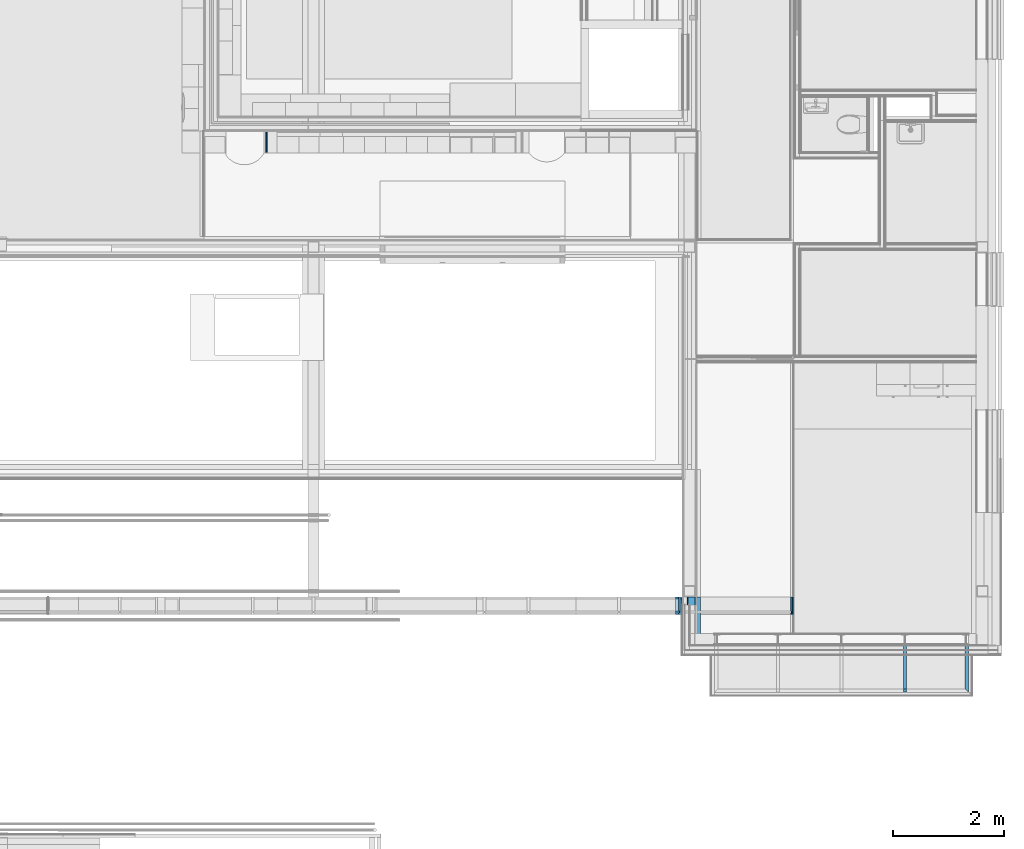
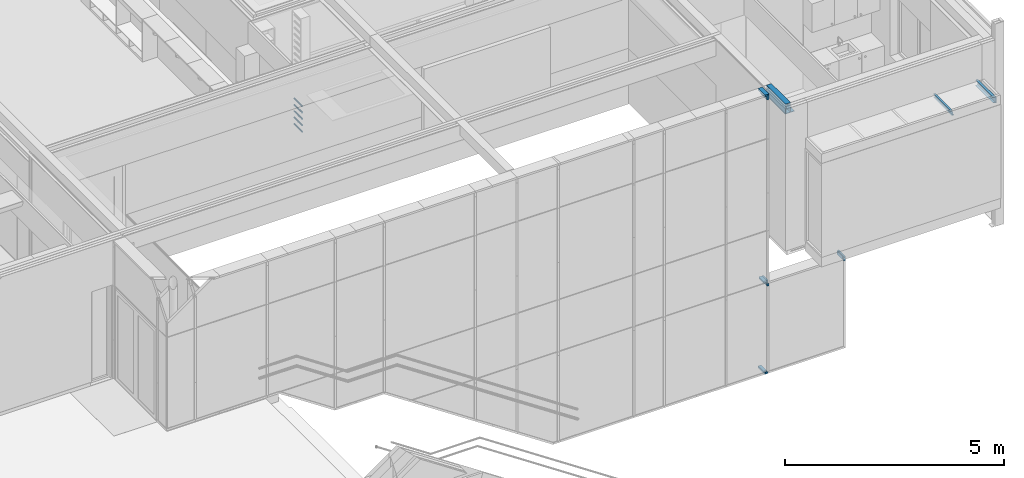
# One storey, part 32 of 137: 8 beams, 8 members, 1 element without a shape of its own.
"""IFC2X3 building model written with IfcOpenShell, lengths in millimetres."""

from ifc_helpers import new_model, entity, si_unit, converted_unit, derived_unit, money_unit, direction, frame, origin_with_axes, place, context, subcontext, project, spatial, faceted_brep, material, type_object, element, aggregate, save


model = new_model("IFC2X3")

# Units and contexts
model_context = context("Model", 3, precision=0.01, world=origin_with_axes(), true_north=direction((0.0, 1.0)))
body_context = subcontext(model_context, "Body", "Model", "MODEL_VIEW")
ifc_project = project(units=[si_unit("LENGTHUNIT", "METRE", prefix="MILLI"), si_unit("AREAUNIT", "SQUARE_METRE"), si_unit("VOLUMEUNIT", "CUBIC_METRE"), converted_unit("PLANEANGLEUNIT", "DEGREE", entity("IfcPlaneAngleMeasure", 0.0174532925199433), si_unit("PLANEANGLEUNIT", "RADIAN"), dimensions=[0, 0, 0, 0, 0, 0, 0]), money_unit("EUR"), converted_unit("TIMEUNIT", "Year", entity("IfcTimeMeasure", 31556926.0), si_unit("TIMEUNIT", "SECOND"), dimensions=[0, 0, 1, 0, 0, 0, 0]), si_unit("MASSUNIT", "GRAM", prefix="KILO"), si_unit("THERMODYNAMICTEMPERATUREUNIT", "DEGREE_CELSIUS"), si_unit("LUMINOUSINTENSITYUNIT", "LUMEN"), si_unit("ENERGYUNIT", "JOULE", prefix="MEGA"), derived_unit("THERMALCONDUCTANCEUNIT", [(si_unit("POWERUNIT", "WATT"), 1), (si_unit("LENGTHUNIT", "METRE"), -1), (si_unit("THERMODYNAMICTEMPERATUREUNIT", "KELVIN"), -1)]), derived_unit("SPECIFICHEATCAPACITYUNIT", [(si_unit("ENERGYUNIT", "JOULE"), 1), (si_unit("MASSUNIT", "GRAM", prefix="KILO"), -1), (si_unit("THERMODYNAMICTEMPERATUREUNIT", "KELVIN"), -1)]), derived_unit("MASSDENSITYUNIT", [(si_unit("MASSUNIT", "GRAM", prefix="KILO"), 1), (si_unit("VOLUMEUNIT", "CUBIC_METRE"), -1)])], contexts=[model_context])

# Site, building, storey
site_placement = place(None, origin_with_axes())
site = spatial("IfcSite", under=ifc_project, at=site_placement, Name="Site", CompositionType="ELEMENT")
building_placement = place(site_placement, origin_with_axes())
building = spatial("IfcBuilding", under=site, at=building_placement, Name="Naam gebouw", CompositionType="ELEMENT")
storey_placement = place(building_placement, frame((0.0, 0.0, 3960.0), z_axis=(0.0, 0.0, 1.0), x_axis=(1.0, 0.0, 0.0)))
storey = spatial("IfcBuildingStorey", under=building, at=storey_placement, Name="1e verdieping", CompositionType="ELEMENT", Elevation=3960.0)

# Beams
ifc_material_1 = material(Name="Metaal - Staal C")
beam_type_1 = type_object("IfcBeamType", Name="28 THQ enkele flens 06 245 x 280", PredefinedType="BEAM")
beam_1_placement = place(storey_placement, frame((24499.99903999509, 3599.999999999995, 3859.999999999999), z_axis=(0.0, 0.0, 1.0), x_axis=(1.0, 0.0, 0.0)))
element("IfcBeam", 1, at=beam_1_placement, inside=storey, type_object=beam_type_1, material=ifc_material_1, Name="h METAAL_Regenwaterafvoer-x", ObjectType="BEAM", context=body_context, shape_type="Brep", body=[
    faceted_brep([(198.9999916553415, 0.0, -279.9999988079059), (-46.00000834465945, 0.0, -279.9999988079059), (-46.00000834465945, 880.0000000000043, -279.9999988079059), (198.9999916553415, 880.0000000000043, -279.9999988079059), (-31.00000953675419, 0.0, -264.9999999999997), (-46.00000834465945, 0.0, -264.9999999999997), (198.9999916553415, 0.0, -264.9999999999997), (100.9999999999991, 0.0, -264.9999999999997), (100.9999999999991, 0.0, 1.192097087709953e-06), (-31.00000953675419, 0.0, 1.192097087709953e-06), (94.99999046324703, 0.0, -30.00000059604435), (94.99999046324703, 0.0, -264.9999999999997), (-25.00000834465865, 0.0, -264.9999999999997), (-25.00000834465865, 0.0, -30.00000059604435), (-46.00000834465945, 880.0000000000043, -264.9999999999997), (198.9999916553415, 880.0000000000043, -264.9999999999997), (-31.00000953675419, 880.0000000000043, -264.9999999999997), (-31.00000953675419, 880.0000000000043, 1.192097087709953e-06), (100.9999999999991, 880.0000000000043, 1.192097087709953e-06), (100.9999999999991, 880.0000000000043, -264.9999999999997), (94.99999046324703, 880.0000000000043, -30.00000059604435), (-25.00000834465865, 880.0000000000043, -30.00000059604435), (-25.00000834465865, 880.0000000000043, -264.9999999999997), (94.99999046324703, 880.0000000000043, -264.9999999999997)], [[[0, 1, 2, 3]], [[4, 5, 1, 0, 6, 7, 8, 9], [10, 11, 12, 13]], [[1, 5, 14, 2]], [[15, 3, 2, 14, 16, 17, 18, 19], [20, 21, 22, 23]], [[6, 0, 3, 15]], [[5, 4, 16, 14]], [[7, 6, 15, 19]], [[8, 7, 19, 18]], [[9, 8, 18, 17]], [[4, 9, 17, 16]], [[11, 10, 20, 23]], [[12, 11, 23, 22]], [[13, 12, 22, 21]], [[10, 13, 21, 20]]]),
])
beam_type_2 = type_object("IfcBeamType", Name="IPE100 55 x 100", PredefinedType="BEAM")
beam_2_placement = place(storey_placement, frame((28399.99999999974, 2750.000035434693, 2733.5), z_axis=(0.0, 0.0, 1.0), x_axis=(1.0, 0.0, 0.0)))
element("IfcBeam", 2, at=beam_2_placement, inside=storey, type_object=beam_type_2, material=ifc_material_1, Name="h METAAL_Regenwaterafvoer-x", ObjectType="BEAM", context=body_context, shape_type="Brep", body=[
    faceted_brep([(-27.49999999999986, 849.9999999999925, 49.99999999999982), (-27.49999999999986, 64.99996456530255, 49.99999999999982), (27.49999999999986, 64.99996456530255, 49.99999999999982), (27.49999999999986, 849.9999999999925, 49.99999999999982), (-27.49999999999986, 849.9999999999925, 44.29999999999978), (-27.49999999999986, 64.99996456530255, 44.29999999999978), (2.050000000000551, 64.99996456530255, 44.29999999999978), (27.49999999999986, 64.99996456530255, 44.29999999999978), (-2.050000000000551, 64.99996456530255, 44.29999999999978), (-2.050000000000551, 64.99996456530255, 39.49999999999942), (2.050000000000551, 64.99996456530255, 39.49999999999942), (27.49999999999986, 849.9999999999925, 44.29999999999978), (-2.050000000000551, 849.9999999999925, -44.29999999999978), (-2.050000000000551, 849.9999999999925, 44.29999999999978), (2.050000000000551, 849.9999999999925, 44.29999999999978), (2.050000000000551, 849.9999999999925, -44.29999999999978), (27.49999999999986, 849.9999999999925, -44.29999999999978), (27.49999999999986, 849.9999999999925, -49.99999999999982), (-27.49999999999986, 849.9999999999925, -49.99999999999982), (-27.49999999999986, 849.9999999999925, -44.29999999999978), (-2.050000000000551, 7.499964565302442, 39.49999999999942), (-2.050000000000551, 7.499964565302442, -44.29999999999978), (2.050000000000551, 7.499964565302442, 39.49999999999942), (2.050000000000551, 7.499964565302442, -44.29999999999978), (27.49999999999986, 7.499964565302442, -44.29999999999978), (27.49999999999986, 7.499964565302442, -49.99999999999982), (-27.49999999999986, 7.499964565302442, -49.99999999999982), (-27.49999999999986, 7.499964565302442, -44.29999999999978)], [[[0, 1, 2, 3]], [[4, 5, 1, 0]], [[6, 7, 2, 1, 5, 8, 9, 10]], [[3, 2, 7, 11]], [[12, 13, 4, 0, 3, 11, 14, 15, 16, 17, 18, 19]], [[13, 8, 5, 4]], [[11, 7, 6, 14]], [[20, 9, 8, 13, 12, 21]], [[20, 22, 10, 9]], [[10, 22, 23, 15, 14, 6]], [[15, 23, 24, 16]], [[16, 24, 25, 17]], [[17, 25, 26, 18]], [[18, 26, 27, 19]], [[19, 27, 21, 12]], [[26, 25, 24, 23, 22, 20, 21, 27]]]),
])
beam_type_3 = type_object("IfcBeamType", Name="UNP160 65 x 160", PredefinedType="BEAM")
beam_3_placement = place(storey_placement, frame((29549.99999999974, 3600.000070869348, 2703.499999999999), z_axis=(0.0, 0.0, 1.0), x_axis=(-1.0, 0.0, 0.0)))
element("IfcBeam", 3, at=beam_3_placement, inside=storey, type_object=beam_type_3, material=ifc_material_1, Name="h METAAL_Regenwaterafvoer-x", ObjectType="BEAM", context=body_context, shape_type="Brep", body=[
    faceted_brep([(0.0, 0.0, -80.00000000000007), (0.0, 850.0000708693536, -80.00000000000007), (65.00000000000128, 785.000070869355, -80.00000000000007), (65.00000000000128, 0.0, -80.00000000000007), (0.0, 0.0, 80.00000000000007), (0.0, 850.0000708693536, 80.00000000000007), (65.00000000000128, 785.000070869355, 80.00000000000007), (65.00000000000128, 785.000070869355, 69.49999999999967), (7.500000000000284, 842.5000708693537, 69.49999999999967), (7.500000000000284, 842.5000708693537, -69.49999999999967), (65.00000000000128, 785.000070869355, -69.49999999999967), (65.00000000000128, 0.0, -69.49999999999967), (7.500000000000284, 0.0, -69.49999999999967), (7.500000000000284, 0.0, 69.49999999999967), (65.00000000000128, 0.0, 69.49999999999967), (65.00000000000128, 0.0, 80.00000000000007)], [[[0, 1, 2, 3]], [[4, 5, 1, 0]], [[2, 1, 5, 6, 7, 8, 9, 10]], [[3, 2, 10, 11]], [[4, 0, 3, 11, 12, 13, 14, 15]], [[15, 6, 5, 4]], [[14, 7, 6, 15]], [[13, 8, 7, 14]], [[12, 9, 8, 13]], [[11, 10, 9, 12]]]),
])
ifc_material_2 = material(Name="ALG - ALGEMEEN")
beam_type_4 = type_object("IfcBeamType", Name="ALG - ALGEMEEN D30", PredefinedType="BEAM")
for number, where, z_axis, x_axis, name in (
    (4, (16849.70874993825, 12893.3162414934, 344.9999999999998), (0.0, 0.0, 1.0), (-1.0, 0.0, 0.0), "_Regenwaterafvoer-x"),
    (5, (16849.70874993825, 12893.3162414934, 705.0000000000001), (0.0, 0.0, 1.0), (-1.0, 0.0, 0.0), "_Regenwaterafvoer-x"),
):
    element("IfcBeam", number, at=place(storey_placement, frame(where, z_axis=z_axis, x_axis=x_axis)), inside=storey, type_object=beam_type_4, material=ifc_material_2, Name=name, ObjectType="BEAM", context=body_context, shape_type="Brep", body=[
        faceted_brep([(-12.99038105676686, 6.318459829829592, -7.500000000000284), (-15.00000000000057, 6.318459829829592, 0.0), (-15.00000000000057, 370.3184598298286, 0.0), (-12.99038105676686, 370.3184598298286, -7.500000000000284), (-12.99038105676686, 6.318459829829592, 7.500000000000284), (-7.500000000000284, 6.318459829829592, -12.99038105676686), (0.0, 6.318459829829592, -14.99999999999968), (7.500000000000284, 6.318459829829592, -12.99038105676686), (12.99038105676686, 6.318459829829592, -7.500000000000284), (15.00000000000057, 6.318459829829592, 0.0), (12.99038105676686, 6.318459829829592, 7.500000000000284), (7.500000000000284, 6.318459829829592, 12.99038105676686), (0.0, 6.318459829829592, 14.99999999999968), (-7.500000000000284, 6.318459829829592, 12.99038105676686), (-12.99038105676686, 370.3184598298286, 7.500000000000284), (-7.500000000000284, 370.3184598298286, 12.99038105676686), (0.0, 370.3184598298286, 14.99999999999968), (7.500000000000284, 370.3184598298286, 12.99038105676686), (12.99038105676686, 370.3184598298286, 7.500000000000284), (15.00000000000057, 370.3184598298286, 0.0), (12.99038105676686, 370.3184598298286, -7.500000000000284), (7.500000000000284, 370.3184598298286, -12.99038105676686), (0.0, 370.3184598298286, -14.99999999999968), (-7.500000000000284, 370.3184598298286, -12.99038105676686)], [[[0, 1, 2, 3]], [[4, 1, 0, 5, 6, 7, 8, 9, 10, 11, 12, 13]], [[1, 4, 14, 2]], [[3, 2, 14, 15, 16, 17, 18, 19, 20, 21, 22, 23]], [[5, 0, 3, 23]], [[6, 5, 23, 22]], [[7, 6, 22, 21]], [[8, 7, 21, 20]], [[9, 8, 20, 19]], [[10, 9, 19, 18]], [[11, 10, 18, 17]], [[12, 11, 17, 16]], [[13, 12, 16, 15]], [[4, 13, 15, 14]]]),
    ])
for number, where, z_axis, x_axis, name in (
    (6, (16849.70874993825, 12893.3162414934, 885.0000000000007), (0.0, 0.0, 1.0), (-1.0, 0.0, 0.0), "_Regenwaterafvoer-x"),
    (7, (16849.70874993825, 12893.3162414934, 1065.0), (0.0, 0.0, 1.0), (-1.0, 0.0, 0.0), "_Regenwaterafvoer-x"),
):
    element("IfcBeam", number, at=place(storey_placement, frame(where, z_axis=z_axis, x_axis=x_axis)), inside=storey, type_object=beam_type_4, material=ifc_material_2, Name=name, ObjectType="BEAM", context=body_context, shape_type="Brep", body=[
        faceted_brep([(-12.99038105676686, 6.318459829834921, -7.500000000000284), (-15.00000000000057, 6.318459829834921, 0.0), (-15.00000000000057, 370.3184598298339, 0.0), (-12.99038105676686, 370.3184598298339, -7.500000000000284), (-12.99038105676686, 6.318459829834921, 7.500000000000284), (-7.500000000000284, 6.318459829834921, -12.99038105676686), (0.0, 6.318459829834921, -14.99999999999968), (7.500000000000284, 6.318459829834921, -12.99038105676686), (12.99038105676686, 6.318459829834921, -7.500000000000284), (15.00000000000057, 6.318459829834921, 0.0), (12.99038105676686, 6.318459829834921, 7.500000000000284), (7.500000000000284, 6.318459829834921, 12.99038105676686), (0.0, 6.318459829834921, 14.99999999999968), (-7.500000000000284, 6.318459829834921, 12.99038105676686), (-12.99038105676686, 370.3184598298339, 7.500000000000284), (-7.500000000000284, 370.3184598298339, 12.99038105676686), (0.0, 370.3184598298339, 14.99999999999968), (7.500000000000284, 370.3184598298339, 12.99038105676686), (12.99038105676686, 370.3184598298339, 7.500000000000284), (15.00000000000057, 370.3184598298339, 0.0), (12.99038105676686, 370.3184598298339, -7.500000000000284), (7.500000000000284, 370.3184598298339, -12.99038105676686), (0.0, 370.3184598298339, -14.99999999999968), (-7.500000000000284, 370.3184598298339, -12.99038105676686)], [[[0, 1, 2, 3]], [[4, 1, 0, 5, 6, 7, 8, 9, 10, 11, 12, 13]], [[1, 4, 14, 2]], [[3, 2, 14, 15, 16, 17, 18, 19, 20, 21, 22, 23]], [[5, 0, 3, 23]], [[6, 5, 23, 22]], [[7, 6, 22, 21]], [[8, 7, 21, 20]], [[9, 8, 20, 19]], [[10, 9, 19, 18]], [[11, 10, 18, 17]], [[12, 11, 17, 16]], [[13, 12, 16, 15]], [[4, 13, 15, 14]]]),
    ])
beam_4_placement = place(storey_placement, frame((16849.70874993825, 12893.3162414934, 525.0000000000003), z_axis=(0.0, 0.0, 1.0), x_axis=(-1.0, 0.0, 0.0)))
element("IfcBeam", 8, at=beam_4_placement, inside=storey, type_object=beam_type_4, material=ifc_material_2, Name="_Regenwaterafvoer-x", ObjectType="BEAM", context=body_context, shape_type="Brep", body=[
    faceted_brep([(-12.99038105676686, 6.318459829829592, -7.500000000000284), (-15.00000000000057, 6.318459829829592, 0.0), (-15.00000000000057, 370.3184598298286, 0.0), (-12.99038105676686, 370.3184598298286, -7.500000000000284), (-12.99038105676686, 6.318459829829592, 7.500000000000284), (-7.500000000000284, 6.318459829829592, -12.99038105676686), (0.0, 6.318459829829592, -14.99999999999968), (7.500000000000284, 6.318459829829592, -12.99038105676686), (12.99038105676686, 6.318459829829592, -7.500000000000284), (15.00000000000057, 6.318459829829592, 0.0), (12.99038105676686, 6.318459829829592, 7.500000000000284), (7.500000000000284, 6.318459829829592, 12.99038105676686), (0.0, 6.318459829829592, 14.99999999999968), (-7.500000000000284, 6.318459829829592, 12.99038105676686), (-12.99038105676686, 370.3184598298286, 7.500000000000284), (-7.500000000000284, 370.3184598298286, 12.99038105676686), (0.0, 370.3184598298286, 14.99999999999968), (7.500000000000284, 370.3184598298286, 12.99038105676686), (12.99038105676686, 370.3184598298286, 7.500000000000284), (15.00000000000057, 370.3184598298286, 0.0), (12.99038105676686, 370.3184598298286, -7.500000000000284), (7.500000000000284, 370.3184598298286, -12.99038105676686), (0.0, 370.3184598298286, -14.99999999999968), (-7.500000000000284, 370.3184598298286, -12.99038105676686)], [[[0, 1, 2, 3]], [[4, 1, 0, 5, 6, 7, 8, 9, 10, 11, 12, 13]], [[1, 4, 14, 2]], [[3, 2, 14, 15, 16, 17, 18, 19, 20, 21, 22, 23]], [[5, 0, 3, 23]], [[6, 5, 23, 22]], [[7, 6, 22, 21]], [[8, 7, 21, 20]], [[9, 8, 20, 19]], [[10, 9, 19, 18]], [[11, 10, 18, 17]], [[12, 11, 17, 16]], [[13, 12, 16, 15]], [[4, 13, 15, 14]]]),
])

# Curtain wall, members
curtain_wall_type = type_object("IfcCurtainWallType", Name="Curtain Wall Type", PredefinedType="NOTDEFINED")
curtain_wall_placement = place(storey_placement, frame((8473.014787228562, 4364.43626274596, -3949.999921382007), z_axis=(0.0, 0.0, 1.0), x_axis=(1.0, 0.0, 0.0)))
curtain_wall = element("IfcCurtainWall", 9, at=curtain_wall_placement, inside=storey, type_object=curtain_wall_type, Name="21_Vliesgevel-x")
ifc_material_3 = material(Name="Metaal - Staal AFW")
member_type_1 = type_object("IfcMemberType", Name="Boundary Frame 50 x 313", PredefinedType="MULLION")
member_1_placement = place(curtain_wall_placement, frame((15769.94164561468, -161.4362627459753, 7800.000020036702), z_axis=(1.0, 0.0, 0.0), x_axis=(0.0, 0.0, 1.0)))
member_1 = element("IfcMember", 10, at=member_1_placement, type_object=member_type_1, material=ifc_material_3, Name="h METAAL_Kader-x", ObjectType="MULLION", context=body_context, shape_type="Brep", body=[
    faceted_brep([(-35.00000000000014, -17.4000000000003, 0.0), (-35.00000000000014, -17.4000000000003, 76.0446095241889), (-35.00000000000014, 20.99999999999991, 76.0446095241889), (-35.00000000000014, 20.99999999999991, 0.0), (-14.99999999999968, -17.4000000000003, 0.0), (-14.99999999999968, -17.4000000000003, 96.04460952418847), (-14.99999999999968, 20.99999999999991, 96.04460952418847), (-14.99999999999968, 20.99999999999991, 0.0)], [[[0, 1, 2, 3]], [[4, 5, 1, 0]], [[1, 5, 6, 2]], [[3, 2, 6, 7]], [[0, 3, 7, 4]], [[7, 6, 5, 4]]]),
    faceted_brep([(-14.99999999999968, -20.99999999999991, 0.0), (-14.99999999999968, -20.99999999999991, 96.04460952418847), (-14.99999999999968, 20.99999999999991, 96.04460952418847), (-14.99999999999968, 20.99999999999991, 0.0), (0.0, -20.99999999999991, 0.0), (0.0, -20.99999999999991, 111.044609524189), (0.0, 20.99999999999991, 111.044609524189), (0.0, 20.99999999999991, 0.0)], [[[0, 1, 2, 3]], [[4, 5, 1, 0]], [[1, 5, 6, 2]], [[3, 2, 6, 7]], [[0, 3, 7, 4]], [[7, 6, 5, 4]]]),
    faceted_brep([(-49.99999999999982, -272.0000000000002, 0.0), (-49.99999999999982, -272.0000000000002, 61.04460952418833), (-49.99999999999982, -17.4000000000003, 61.04460952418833), (-49.99999999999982, -17.4000000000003, 0.0), (0.0, -272.0000000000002, 0.0), (0.0, -272.0000000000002, 111.044609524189), (0.0, -17.4000000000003, 111.044609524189), (0.0, -17.4000000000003, 0.0)], [[[0, 1, 2, 3]], [[4, 5, 1, 0]], [[1, 5, 6, 2]], [[3, 2, 6, 7]], [[0, 3, 7, 4]], [[7, 6, 5, 4]]]),
    faceted_brep([(0.0, 41.00000000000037, 0.0), (0.0, 41.00000000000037, 111.044609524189), (0.0, 20.99999999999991, 111.044609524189), (0.0, 20.99999999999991, 0.0), (-49.99999999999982, 41.00000000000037, 0.0), (-49.99999999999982, 41.00000000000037, 61.04460952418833), (-49.99999999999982, 20.99999999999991, 61.04460952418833), (-49.99999999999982, 20.99999999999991, 0.0)], [[[0, 1, 2, 3]], [[4, 5, 1, 0]], [[1, 5, 6, 2]], [[3, 2, 6, 7]], [[0, 3, 7, 4]], [[7, 6, 5, 4]]]),
])
member_2_placement = place(curtain_wall_placement, frame((15880.98625513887, -161.4362627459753, 7639.999766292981), z_axis=(0.0, 0.0, 1.0), x_axis=(-1.0, 0.0, 0.0)))
member_2 = element("IfcMember", 11, at=member_2_placement, type_object=member_type_1, material=ifc_material_3, Name="h METAAL_Kader-x", ObjectType="MULLION", context=body_context, shape_type="Brep", body=[
    faceted_brep([(35.00000000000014, -17.4000000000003, 0.0), (35.00000000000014, 20.99999999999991, 0.0), (35.00000000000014, 20.99999999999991, 125.000253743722), (35.00000000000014, -17.4000000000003, 125.000253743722), (15.00000000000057, -17.4000000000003, 0.0), (15.00000000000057, 20.99999999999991, 0.0), (15.00000000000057, 20.99999999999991, 145.0002537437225), (15.00000000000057, -17.4000000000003, 145.0002537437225)], [[[0, 1, 2, 3]], [[0, 4, 5, 1]], [[1, 5, 6, 2]], [[3, 2, 6, 7]], [[4, 0, 3, 7]], [[5, 4, 7, 6]]]),
    faceted_brep([(15.00000000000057, -20.99999999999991, 0.0), (15.00000000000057, 20.99999999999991, 0.0), (15.00000000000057, 20.99999999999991, 145.0002537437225), (15.00000000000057, -20.99999999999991, 145.0002537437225), (0.0, -20.99999999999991, 0.0), (0.0, 20.99999999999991, 0.0), (0.0, 20.99999999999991, 160.0002537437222), (0.0, -20.99999999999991, 160.0002537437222)], [[[0, 1, 2, 3]], [[0, 4, 5, 1]], [[1, 5, 6, 2]], [[3, 2, 6, 7]], [[4, 0, 3, 7]], [[5, 4, 7, 6]]]),
    faceted_brep([(50.00000000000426, -272.0000000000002, 0.0), (50.00000000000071, -17.4000000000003, 0.0), (50.00000000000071, -17.4000000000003, 110.0002537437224), (50.00000000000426, -272.0000000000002, 110.0002537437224), (0.0, -272.0000000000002, 0.0), (0.0, -17.4000000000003, 0.0), (0.0, -17.4000000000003, 160.0002537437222), (0.0, -272.0000000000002, 160.0002537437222)], [[[0, 1, 2, 3]], [[0, 4, 5, 1]], [[1, 5, 6, 2]], [[3, 2, 6, 7]], [[4, 0, 3, 7]], [[5, 4, 7, 6]]]),
    faceted_brep([(0.0, 41.00000000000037, 0.0), (0.0, 20.99999999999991, 0.0), (0.0, 20.99999999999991, 160.0002537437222), (0.0, 41.00000000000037, 160.0002537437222), (50.00000000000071, 41.00000000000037, 0.0), (50.00000000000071, 20.99999999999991, 0.0), (50.00000000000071, 20.99999999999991, 110.0002537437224), (50.00000000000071, 41.00000000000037, 110.0002537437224)], [[[0, 1, 2, 3]], [[0, 4, 5, 1]], [[1, 5, 6, 2]], [[3, 2, 6, 7]], [[4, 0, 3, 7]], [[5, 4, 7, 6]]]),
])
member_3_placement = place(curtain_wall_placement, frame((17902.98668758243, -161.4362627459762, 2535.000029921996), z_axis=(0.0, 0.0, 1.0), x_axis=(-1.0, 0.0, 0.0)))
member_3 = element("IfcMember", 12, at=member_3_placement, type_object=member_type_1, material=ifc_material_3, Name="h METAAL_Kader-x", ObjectType="MULLION", context=body_context, shape_type="Brep", body=[
    faceted_brep([(24.99997453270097, 20.99999999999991, 0.0), (15.00000000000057, 20.99999999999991, 0.0), (15.00000000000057, 20.99999999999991, 9.999974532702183), (24.99997453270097, -17.4000000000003, 0.0), (15.00000000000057, -17.4000000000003, 0.0), (15.00000000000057, -17.4000000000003, 9.999974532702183)], [[[0, 1, 2]], [[3, 4, 1, 0]], [[1, 4, 5, 2]], [[0, 2, 5, 3]], [[4, 3, 5]]]),
    faceted_brep([(15.00000000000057, -20.99999999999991, 0.0), (15.00000000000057, 20.99999999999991, 0.0), (15.00000000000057, 20.99999999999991, 9.999974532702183), (15.00000000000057, -20.99999999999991, 9.999974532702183), (0.0, -20.99999999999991, 0.0), (0.0, 20.99999999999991, 0.0), (0.0, 20.99999999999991, 24.99997453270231), (0.0, -20.99999999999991, 24.99997453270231)], [[[0, 1, 2, 3]], [[0, 4, 5, 1]], [[1, 5, 6, 2]], [[3, 2, 6, 7]], [[4, 0, 3, 7]], [[5, 4, 7, 6]]]),
    faceted_brep([(24.99997453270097, -17.4000000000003, 0.0), (0.0, -17.4000000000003, 0.0), (0.0, -17.4000000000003, 24.99997453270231), (24.99997453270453, -272.0000000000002, 0.0), (0.0, -272.0000000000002, 0.0), (0.0, -272.0000000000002, 24.99997453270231)], [[[0, 1, 2]], [[3, 4, 1, 0]], [[1, 4, 5, 2]], [[0, 2, 5, 3]], [[4, 3, 5]]]),
    faceted_brep([(0.0, 41.00000000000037, 0.0), (0.0, 20.99999999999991, 0.0), (0.0, 20.99999999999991, 24.99997453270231), (0.0, 41.00000000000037, 24.99997453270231), (24.99997453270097, 41.00000000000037, 0.0), (24.99997453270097, 20.99999999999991, 0.0)], [[[0, 1, 2, 3]], [[0, 4, 5, 1]], [[1, 5, 2]], [[5, 4, 3, 2]], [[4, 0, 3]]]),
])
member_4_placement = place(curtain_wall_placement, frame((15769.94164561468, -161.4362627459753, 3.861439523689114e-05), z_axis=(0.9999999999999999, 0.0, -1.810294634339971e-08), x_axis=(1.810294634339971e-08, 0.0, 0.9999999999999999)))
member_4 = element("IfcMember", 13, at=member_4_placement, type_object=member_type_1, material=ifc_material_3, Name="h METAAL_Kader-x", ObjectType="MULLION", context=body_context, shape_type="Brep", body=[
    faceted_brep([(34.99999999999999, -17.4000000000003, -1.086174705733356e-06), (34.99999999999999, 20.99999999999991, -1.086174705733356e-06), (35.00000156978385, 20.99999999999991, 86.71427386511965), (35.00000156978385, -17.4000000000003, 86.71427386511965), (14.99999999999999, -17.4000000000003, -7.241176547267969e-07), (14.99999999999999, 20.99999999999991, -7.241176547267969e-07), (15.00000156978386, 20.99999999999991, 86.7142742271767), (15.00000156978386, -17.4000000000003, 86.7142742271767)], [[[0, 1, 2, 3]], [[0, 4, 5, 1]], [[1, 5, 6, 2]], [[3, 2, 6, 7]], [[4, 0, 3, 7]], [[5, 4, 7, 6]]]),
    faceted_brep([(14.99999999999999, -20.99999999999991, -7.241176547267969e-07), (14.99999999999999, 20.99999999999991, -7.241176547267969e-07), (15.00000156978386, 20.99999999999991, 86.7142742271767), (15.00000156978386, -20.99999999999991, 86.7142742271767), (0.0, -20.99999999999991, -4.525730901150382e-07), (0.0, 20.99999999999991, -4.525730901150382e-07), (1.569783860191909e-06, 20.99999999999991, 86.71427449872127), (1.569783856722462e-06, -20.99999999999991, 86.71427449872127)], [[[0, 1, 2, 3]], [[0, 4, 5, 1]], [[1, 5, 6, 2]], [[3, 2, 6, 7]], [[4, 0, 3, 7]], [[5, 4, 7, 6]]]),
    faceted_brep([(49.99999999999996, -272.0000000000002, -1.357719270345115e-06), (49.99999999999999, -17.4000000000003, -1.357719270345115e-06), (50.00000156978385, -17.4000000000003, 86.71427359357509), (50.00000156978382, -272.0000000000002, 86.71427359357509), (0.0, -272.0000000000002, -4.525730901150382e-07), (0.0, -17.4000000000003, -4.525730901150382e-07), (1.569783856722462e-06, -17.4000000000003, 86.71427449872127), (1.569783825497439e-06, -272.0000000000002, 86.71427449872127)], [[[0, 1, 2, 3]], [[0, 4, 5, 1]], [[1, 5, 6, 2]], [[3, 2, 6, 7]], [[4, 0, 3, 7]], [[5, 4, 7, 6]]]),
    faceted_brep([(0.0, 41.00000000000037, -4.525730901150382e-07), (0.0, 20.99999999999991, -4.525730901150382e-07), (1.569783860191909e-06, 20.99999999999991, 86.71427449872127), (1.569783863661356e-06, 41.00000000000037, 86.71427449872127), (49.99999999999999, 41.00000000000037, -1.357719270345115e-06), (49.99999999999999, 20.99999999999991, -1.357719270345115e-06), (50.00000156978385, 20.99999999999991, 86.71427359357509), (50.00000156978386, 41.00000000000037, 86.71427359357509)], [[[0, 1, 2, 3]], [[0, 4, 5, 1]], [[1, 5, 6, 2]], [[3, 2, 6, 7]], [[4, 0, 3, 7]], [[5, 4, 7, 6]]]),
])
member_5_placement = place(curtain_wall_placement, frame((17902.98668758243, -161.4362627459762, 2439.99976629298), z_axis=(0.0, 0.0, 1.0), x_axis=(-1.0, 0.0, 0.0)))
member_5 = element("IfcMember", 14, at=member_5_placement, type_object=member_type_1, material=ifc_material_3, Name="h METAAL_Kader-x", ObjectType="MULLION", context=body_context, shape_type="Brep", body=[
    faceted_brep([(35.00000000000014, -17.4000000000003, 0.0), (35.00000000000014, 20.99999999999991, 0.0), (35.00000000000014, 20.99999999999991, 95.00026362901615), (35.00000000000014, -17.4000000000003, 95.00026362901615), (15.00000000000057, -17.4000000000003, 0.0), (15.00000000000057, 20.99999999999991, 0.0), (15.00000000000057, 20.99999999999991, 95.00026362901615), (15.00000000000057, -17.4000000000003, 95.00026362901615)], [[[0, 1, 2, 3]], [[0, 4, 5, 1]], [[1, 5, 6, 2]], [[3, 2, 6, 7]], [[4, 0, 3, 7]], [[5, 4, 7, 6]]]),
    faceted_brep([(15.00000000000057, -20.99999999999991, 0.0), (15.00000000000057, 20.99999999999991, 0.0), (15.00000000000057, 20.99999999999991, 95.00026362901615), (15.00000000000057, -20.99999999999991, 95.00026362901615), (0.0, -20.99999999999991, 0.0), (0.0, 20.99999999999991, 0.0), (0.0, 20.99999999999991, 95.00026362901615), (0.0, -20.99999999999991, 95.00026362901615)], [[[0, 1, 2, 3]], [[0, 4, 5, 1]], [[1, 5, 6, 2]], [[3, 2, 6, 7]], [[4, 0, 3, 7]], [[5, 4, 7, 6]]]),
    faceted_brep([(50.00000000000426, -272.0000000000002, 0.0), (50.00000000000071, -17.4000000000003, 0.0), (50.00000000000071, -17.4000000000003, 95.00026362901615), (50.00000000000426, -272.0000000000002, 95.00026362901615), (0.0, -272.0000000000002, 0.0), (0.0, -17.4000000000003, 0.0), (0.0, -17.4000000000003, 95.00026362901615), (0.0, -272.0000000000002, 95.00026362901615)], [[[0, 1, 2, 3]], [[0, 4, 5, 1]], [[1, 5, 6, 2]], [[3, 2, 6, 7]], [[4, 0, 3, 7]], [[5, 4, 7, 6]]]),
    faceted_brep([(0.0, 41.00000000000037, 0.0), (0.0, 20.99999999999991, 0.0), (0.0, 20.99999999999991, 95.00026362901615), (0.0, 41.00000000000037, 95.00026362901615), (50.00000000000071, 41.00000000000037, 0.0), (50.00000000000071, 20.99999999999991, 0.0), (50.00000000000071, 20.99999999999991, 95.00026362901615), (50.00000000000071, 41.00000000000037, 95.00026362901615)], [[[0, 1, 2, 3]], [[0, 4, 5, 1]], [[1, 5, 6, 2]], [[3, 2, 6, 7]], [[4, 0, 3, 7]], [[5, 4, 7, 6]]]),
])
member_type_2 = type_object("IfcMemberType", Name="Transom Frame 50 x 258", PredefinedType="MULLION")
member_6_placement = place(curtain_wall_placement, frame((15769.94164561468, -161.4362627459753, 2535.000025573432), z_axis=(0.9999999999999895, 0.0, -1.451031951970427e-07), x_axis=(1.451031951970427e-07, 0.0, 0.9999999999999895)))
member_6 = element("IfcMember", 15, at=member_6_placement, type_object=member_type_2, material=ifc_material_3, Name="h METAAL_Kader-x", ObjectType="MULLION", context=body_context, shape_type="Brep", body=[
    faceted_brep([(24.99999999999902, -237.0000000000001, -7.255160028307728e-06), (24.99999999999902, -17.4000000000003, -7.255160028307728e-06), (25.0000125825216, -17.4000000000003, 86.7142980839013), (25.0000125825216, -237.0000000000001, 86.7142980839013), (-25.00000000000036, -237.0000000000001, 0.0), (-25.00000000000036, -17.4000000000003, 0.0), (-24.99998741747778, -17.4000000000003, 86.71430533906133), (-24.99998741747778, -237.0000000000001, 86.71430533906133)], [[[0, 1, 2, 3]], [[0, 4, 5, 1]], [[1, 5, 6, 2]], [[3, 2, 6, 7]], [[4, 0, 3, 7]], [[5, 4, 7, 6]]]),
])
member_7_placement = place(curtain_wall_placement, frame((15856.65594349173, -161.4362627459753, 2535.00001299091), z_axis=(1.0, 0.0, 8.273875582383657e-09), x_axis=(-8.273875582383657e-09, 0.0, 1.0)))
member_7 = element("IfcMember", 16, at=member_7_placement, type_object=member_type_2, material=ifc_material_3, Name="h METAAL_Kader-x", ObjectType="MULLION", context=body_context, shape_type="Brep", body=[
    faceted_brep([(24.99999999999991, -237.0000000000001, -3.627580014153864e-06), (24.99999999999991, -17.4000000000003, -3.627580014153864e-06), (24.99999972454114, -17.4000000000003, 33.29259255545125), (24.99999972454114, -237.0000000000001, 33.29259255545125), (-24.99999999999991, -237.0000000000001, -4.041275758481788e-06), (-24.99999999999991, -17.4000000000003, -4.041275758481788e-06), (-25.00000027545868, -17.4000000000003, 33.29259214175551), (-25.00000027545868, -237.0000000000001, 33.29259214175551)], [[[0, 1, 2, 3]], [[0, 4, 5, 1]], [[1, 5, 6, 2]], [[3, 2, 6, 7]], [[4, 0, 3, 7]], [[5, 4, 7, 6]]]),
])
member_type_3 = type_object("IfcMemberType", Name="Mullion Frame 50 x 313", PredefinedType="MULLION")
member_8_placement = place(curtain_wall_placement, frame((15856.65594349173, -161.4362627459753, 2439.99976629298), z_axis=(0.0, 0.0, 1.0), x_axis=(-1.0, 0.0, 0.0)))
member_8 = element("IfcMember", 17, at=member_8_placement, type_object=member_type_3, material=ifc_material_3, Name="h METAAL_Kader-x", ObjectType="MULLION", context=body_context, shape_type="Brep", body=[
    faceted_brep([(10.00000000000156, -17.4000000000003, -2.395319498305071e-07), (10.00000000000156, 20.99999999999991, -2.395319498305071e-07), (10.00000000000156, 20.99999999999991, 70.00022094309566), (10.00000000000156, -17.4000000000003, 70.00022094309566), (-10.00000000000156, -17.4000000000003, -2.395319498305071e-07), (-10.00000000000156, 20.99999999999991, -2.395319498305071e-07), (-10.00000000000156, 20.99999999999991, 70.00022094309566), (-10.00000000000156, -17.4000000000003, 70.00022094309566)], [[[0, 1, 2, 3]], [[0, 4, 5, 1]], [[1, 5, 6, 2]], [[3, 2, 6, 7]], [[4, 0, 3, 7]], [[5, 4, 7, 6]]]),
    faceted_brep([(24.99999999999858, -272.0000000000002, -2.395319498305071e-07), (24.99999999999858, -17.4000000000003, -2.395319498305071e-07), (24.99999999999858, -17.4000000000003, 70.00022094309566), (24.99999999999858, -272.0000000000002, 70.00022094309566), (-24.99999999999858, -272.0000000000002, -2.395319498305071e-07), (-24.99999999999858, -17.4000000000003, -2.395319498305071e-07), (-24.99999999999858, -17.4000000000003, 70.00022094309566), (-24.99999999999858, -272.0000000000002, 70.00022094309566)], [[[0, 1, 2, 3]], [[0, 4, 5, 1]], [[1, 5, 6, 2]], [[3, 2, 6, 7]], [[4, 0, 3, 7]], [[5, 4, 7, 6]]]),
    faceted_brep([(-24.99999999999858, 40.49999999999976, -2.395319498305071e-07), (-24.99999999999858, 20.99999999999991, -2.395319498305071e-07), (-24.99999999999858, 20.99999999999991, 70.00022094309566), (-24.99999999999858, 40.49999999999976, 70.00022094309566), (24.99999999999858, 40.49999999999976, -2.395319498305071e-07), (24.99999999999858, 20.99999999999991, -2.395319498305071e-07), (24.99999999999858, 20.99999999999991, 70.00022094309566), (24.99999999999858, 40.49999999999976, 70.00022094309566)], [[[0, 1, 2, 3]], [[0, 4, 5, 1]], [[1, 5, 6, 2]], [[3, 2, 6, 7]], [[4, 0, 3, 7]], [[5, 4, 7, 6]]]),
])
aggregate(curtain_wall, [member_1, member_2, member_3, member_4, member_6, member_8, member_7, member_5])

save(model, "model.ifc")
